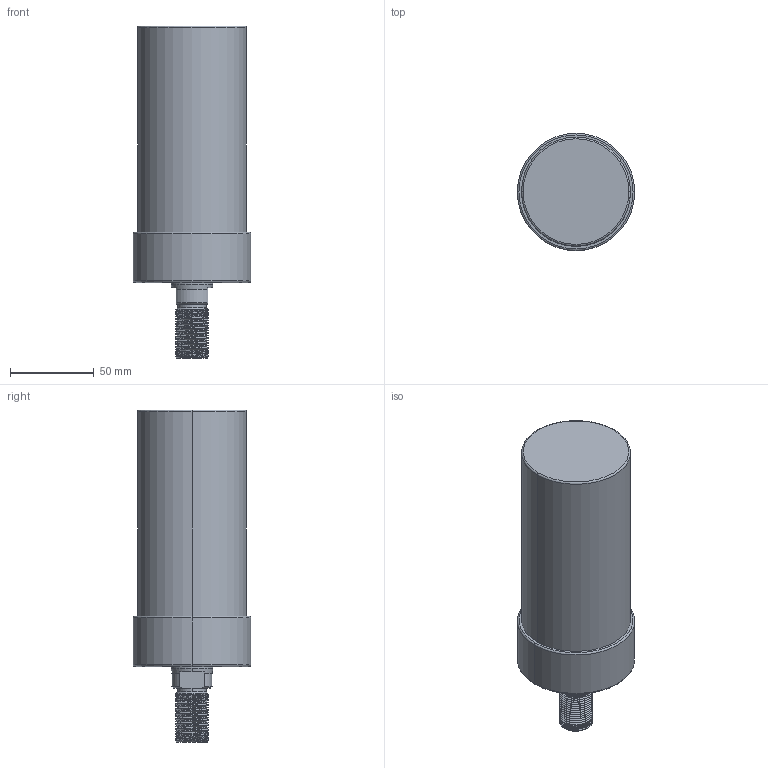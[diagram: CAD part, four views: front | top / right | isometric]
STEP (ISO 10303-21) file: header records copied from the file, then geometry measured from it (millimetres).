
FILE_DESCRIPTION (( 'STEP AP203' ), '1' );
FILE_NAME ('CLLU-065GT-090.STEP', '2020-01-16T02:10:32', ( '' ), ( '' ), 'SwSTEP 2.0', 'SolidWorks 2015', '' );
FILE_SCHEMA (( 'CONFIG_CONTROL_DESIGN' ));
Length unit declared in the file: millimetre
Products named in the file (1): CLLU-065GT-090
Bounding box: 70 x 70 x 198 mm (x, y, z)
Volume: 536364.1 mm3; surface area: 44544.7 mm2
Topology: 1 solids, 1 shells, 105 faces, 267 edges, 165 vertices
Faces by surface type: cylinder 60, cone 26, plane 11, torus 6, bspline 2
Entity records: 5362 total; most frequent: CARTESIAN_POINT 3004, ORIENTED_EDGE 518, DIRECTION 448, EDGE_CURVE 259, AXIS2_PLACEMENT_3D 180, VERTEX_POINT 165, EDGE_LOOP 114, ADVANCED_FACE 105
